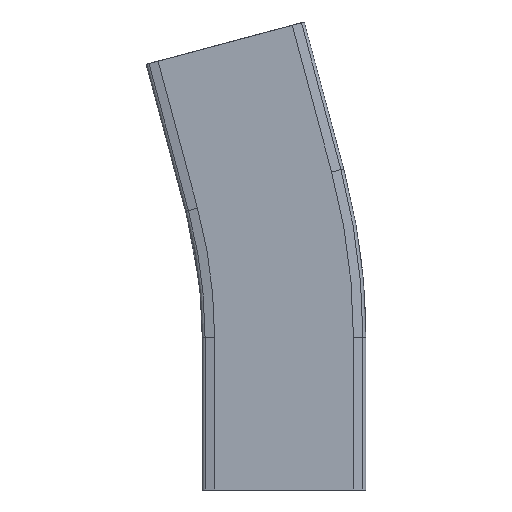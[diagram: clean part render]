
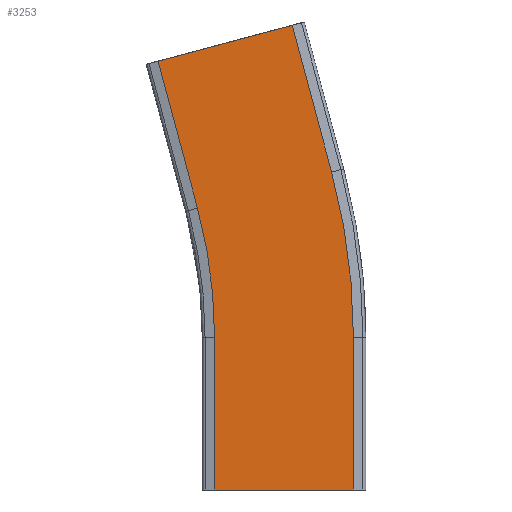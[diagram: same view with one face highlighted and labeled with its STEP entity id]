
A CAD part, front view. The second image highlights one B-rep face of the part: STEP entity #3253.
In plain terms, the highlighted planar face has unit normal (0, -1, 0).
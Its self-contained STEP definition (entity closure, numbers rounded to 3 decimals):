
#335=FACE_OUTER_BOUND('',#511,.T.);
#511=EDGE_LOOP('',(#2957,#2958,#2959,#2960,#2961,#2962,#2963,#2964));
#589=CIRCLE('',#3498,336.5);
#592=CIRCLE('',#3504,263.5);
#910=LINE('',#5581,#1256);
#915=LINE('',#5590,#1261);
#917=LINE('',#5595,#1263);
#932=LINE('',#5635,#1278);
#937=LINE('',#5646,#1283);
#938=LINE('',#5648,#1284);
#1256=VECTOR('',#4255,10.);
#1261=VECTOR('',#4262,10.);
#1263=VECTOR('',#4266,10.);
#1278=VECTOR('',#4307,10.);
#1283=VECTOR('',#4320,10.);
#1284=VECTOR('',#4323,10.);
#1564=VERTEX_POINT('',#5578);
#1565=VERTEX_POINT('',#5580);
#1568=VERTEX_POINT('',#5587);
#1569=VERTEX_POINT('',#5592);
#1579=VERTEX_POINT('',#5618);
#1581=VERTEX_POINT('',#5628);
#1582=VERTEX_POINT('',#5633);
#1584=VERTEX_POINT('',#5644);
#2012=EDGE_CURVE('',#1565,#1564,#910,.T.);
#2017=EDGE_CURVE('',#1565,#1568,#915,.T.);
#2019=EDGE_CURVE('',#1564,#1569,#917,.T.);
#2032=EDGE_CURVE('',#1569,#1579,#589,.T.);
#2038=EDGE_CURVE('',#1568,#1581,#592,.T.);
#2040=EDGE_CURVE('',#1579,#1582,#932,.T.);
#2045=EDGE_CURVE('',#1581,#1584,#937,.T.);
#2046=EDGE_CURVE('',#1582,#1584,#938,.T.);
#2957=ORIENTED_EDGE('',*,*,#2046,.T.);
#2958=ORIENTED_EDGE('',*,*,#2045,.F.);
#2959=ORIENTED_EDGE('',*,*,#2038,.F.);
#2960=ORIENTED_EDGE('',*,*,#2017,.F.);
#2961=ORIENTED_EDGE('',*,*,#2012,.T.);
#2962=ORIENTED_EDGE('',*,*,#2019,.T.);
#2963=ORIENTED_EDGE('',*,*,#2032,.T.);
#2964=ORIENTED_EDGE('',*,*,#2040,.T.);
#3082=PLANE('',#3510);
#3253=ADVANCED_FACE('',(#335),#3082,.T.);
#3498=AXIS2_PLACEMENT_3D('',#5620,#4287,#4288);
#3504=AXIS2_PLACEMENT_3D('',#5631,#4302,#4303);
#3510=AXIS2_PLACEMENT_3D('',#5647,#4321,#4322);
#4255=DIRECTION('',(1.,0.,0.));
#4262=DIRECTION('',(0.,0.,1.));
#4266=DIRECTION('',(0.,0.,1.));
#4287=DIRECTION('center_axis',(0.,-1.,0.));
#4288=DIRECTION('ref_axis',(1.,0.,0.));
#4302=DIRECTION('center_axis',(0.,-1.,0.));
#4303=DIRECTION('ref_axis',(1.,0.,0.));
#4307=DIRECTION('',(-0.259,0.,0.966));
#4320=DIRECTION('',(-0.259,0.,0.966));
#4321=DIRECTION('center_axis',(0.,-1.,0.));
#4322=DIRECTION('ref_axis',(0.259,0.,-0.966));
#4323=DIRECTION('',(-0.966,0.,-0.259));
#5578=CARTESIAN_POINT('',(36.5,-11.,0.));
#5580=CARTESIAN_POINT('',(-36.5,-11.,0.));
#5581=CARTESIAN_POINT('',(-36.5,-11.,0.));
#5587=CARTESIAN_POINT('',(-36.5,-11.,80.));
#5590=CARTESIAN_POINT('',(-36.5,-11.,0.));
#5592=CARTESIAN_POINT('',(36.5,-11.,80.));
#5595=CARTESIAN_POINT('',(36.5,-11.,0.));
#5618=CARTESIAN_POINT('',(25.034,-11.,167.093));
#5620=CARTESIAN_POINT('Origin',(-300.,-11.,80.));
#5628=CARTESIAN_POINT('',(-45.479,-11.,148.199));
#5631=CARTESIAN_POINT('Origin',(-300.,-11.,80.));
#5633=CARTESIAN_POINT('',(4.329,-11.,244.367));
#5635=CARTESIAN_POINT('',(66.067,-11.,13.955));
#5644=CARTESIAN_POINT('',(-66.184,-11.,225.473));
#5646=CARTESIAN_POINT('',(-4.445,-11.,-4.939));
#5647=CARTESIAN_POINT('Origin',(66.067,-11.,13.955));
#5648=CARTESIAN_POINT('',(-11.851,-11.,240.031));
